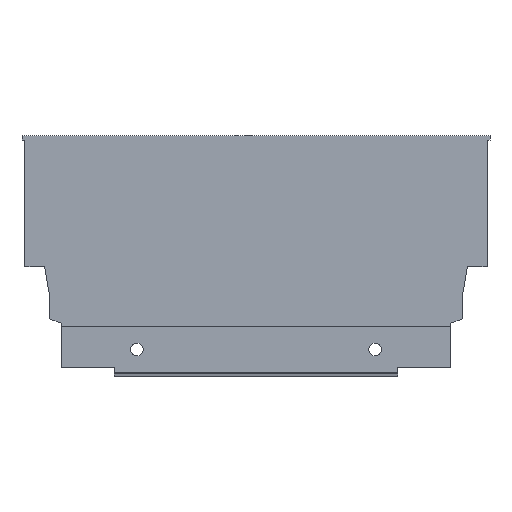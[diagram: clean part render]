
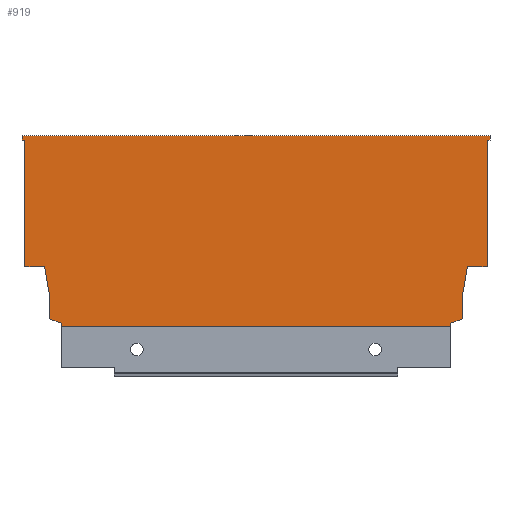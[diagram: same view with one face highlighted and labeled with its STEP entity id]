
A CAD part, top view. The second image highlights one B-rep face of the part: STEP entity #919.
In plain terms, the highlighted planar face has unit normal (0, 0, 1).
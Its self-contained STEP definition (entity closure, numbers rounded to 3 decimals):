
#10 = EDGE_CURVE ( 'NONE', #280, #236, #137, .T. ) ;
#26 = EDGE_CURVE ( 'NONE', #287, #274, #132, .T. ) ;
#28 = EDGE_CURVE ( 'NONE', #309, #254, #146, .T. ) ;
#30 = EDGE_CURVE ( 'NONE', #285, #320, #135, .T. ) ;
#32 = EDGE_CURVE ( 'NONE', #271, #268, #142, .T. ) ;
#34 = EDGE_CURVE ( 'NONE', #262, #300, #143, .T. ) ;
#35 = EDGE_CURVE ( 'NONE', #300, #285, #186, .T. ) ;
#36 = EDGE_CURVE ( 'NONE', #287, #255, #190, .T. ) ;
#38 = EDGE_CURVE ( 'NONE', #248, #274, #228, .T. ) ;
#39 = EDGE_CURVE ( 'NONE', #309, #271, #225, .T. ) ;
#40 = EDGE_CURVE ( 'NONE', #260, #248, #1278, .T. ) ;
#41 = EDGE_CURVE ( 'NONE', #254, #320, #200, .T. ) ;
#43 = EDGE_CURVE ( 'NONE', #255, #262, #231, .T. ) ;
#45 = EDGE_CURVE ( 'NONE', #259, #260, #220, .T. ) ;
#47 = EDGE_CURVE ( 'NONE', #267, #259, #214, .T. ) ;
#49 = EDGE_CURVE ( 'NONE', #236, #267, #205, .T. ) ;
#51 = EDGE_CURVE ( 'NONE', #304, #280, #198, .T. ) ;
#53 = EDGE_CURVE ( 'NONE', #268, #304, #208, .T. ) ;
#129 = VECTOR ( 'NONE', #378, 1000. ) ;
#130 = VECTOR ( 'NONE', #344, 1000. ) ;
#132 = LINE ( 'NONE', #370, #129 ) ;
#135 = LINE ( 'NONE', #381, #140 ) ;
#137 = LINE ( 'NONE', #343, #130 ) ;
#138 = VECTOR ( 'NONE', #382, 1000. ) ;
#139 = VECTOR ( 'NONE', #395, 1000. ) ;
#140 = VECTOR ( 'NONE', #386, 1000. ) ;
#142 = LINE ( 'NONE', #389, #1503 ) ;
#143 = LINE ( 'NONE', #394, #139 ) ;
#146 = LINE ( 'NONE', #379, #138 ) ;
#186 = LINE ( 'NONE', #388, #192 ) ;
#190 = LINE ( 'NONE', #396, #227 ) ;
#192 = VECTOR ( 'NONE', #397, 1000. ) ;
#194 = VECTOR ( 'NONE', #433, 1000. ) ;
#197 = VECTOR ( 'NONE', #429, 1000. ) ;
#198 = LINE ( 'NONE', #428, #197 ) ;
#200 = LINE ( 'NONE', #406, #221 ) ;
#204 = VECTOR ( 'NONE', #425, 1000. ) ;
#205 = LINE ( 'NONE', #424, #204 ) ;
#208 = LINE ( 'NONE', #426, #194 ) ;
#209 = VECTOR ( 'NONE', #421, 1000. ) ;
#213 = VECTOR ( 'NONE', #417, 1000. ) ;
#214 = LINE ( 'NONE', #418, #209 ) ;
#217 = VECTOR ( 'NONE', #413, 1000. ) ;
#220 = LINE ( 'NONE', #414, #213 ) ;
#221 = VECTOR ( 'NONE', #409, 1000. ) ;
#223 = VECTOR ( 'NONE', #407, 1000. ) ;
#224 = VECTOR ( 'NONE', #405, 1000. ) ;
#225 = LINE ( 'NONE', #404, #224 ) ;
#226 = VECTOR ( 'NONE', #403, 1000. ) ;
#227 = VECTOR ( 'NONE', #399, 1000. ) ;
#228 = LINE ( 'NONE', #402, #226 ) ;
#231 = LINE ( 'NONE', #408, #217 ) ;
#236 = VERTEX_POINT ( 'NONE', #592 ) ;
#248 = VERTEX_POINT ( 'NONE', #601 ) ;
#254 = VERTEX_POINT ( 'NONE', #607 ) ;
#255 = VERTEX_POINT ( 'NONE', #608 ) ;
#259 = VERTEX_POINT ( 'NONE', #612 ) ;
#260 = VERTEX_POINT ( 'NONE', #613 ) ;
#262 = VERTEX_POINT ( 'NONE', #615 ) ;
#267 = VERTEX_POINT ( 'NONE', #620 ) ;
#268 = VERTEX_POINT ( 'NONE', #621 ) ;
#271 = VERTEX_POINT ( 'NONE', #624 ) ;
#274 = VERTEX_POINT ( 'NONE', #627 ) ;
#280 = VERTEX_POINT ( 'NONE', #633 ) ;
#285 = VERTEX_POINT ( 'NONE', #638 ) ;
#287 = VERTEX_POINT ( 'NONE', #640 ) ;
#300 = VERTEX_POINT ( 'NONE', #653 ) ;
#304 = VERTEX_POINT ( 'NONE', #657 ) ;
#309 = VERTEX_POINT ( 'NONE', #662 ) ;
#320 = VERTEX_POINT ( 'NONE', #673 ) ;
#343 = CARTESIAN_POINT ( 'NONE',  ( 0., 0., 7.5 ) ) ;
#344 = DIRECTION ( 'NONE',  ( 0., -1., 0. ) ) ;
#370 = CARTESIAN_POINT ( 'NONE',  ( -165., 0., 7.5 ) ) ;
#378 = DIRECTION ( 'NONE',  ( 1., 0., 0. ) ) ;
#379 = CARTESIAN_POINT ( 'NONE',  ( -166., 66.5, 7.5 ) ) ;
#381 = CARTESIAN_POINT ( 'NONE',  ( -170., 21.2, 7.5 ) ) ;
#382 = DIRECTION ( 'NONE',  ( 1., 0., 0. ) ) ;
#386 = DIRECTION ( 'NONE',  ( -1., 0., 0. ) ) ;
#388 = CARTESIAN_POINT ( 'NONE',  ( -157.94, 21.2, 7.5 ) ) ;
#389 = CARTESIAN_POINT ( 'NONE',  ( -165., 68., 7.5 ) ) ;
#390 = DIRECTION ( 'NONE',  ( 1., 0., 0. ) ) ;
#394 = CARTESIAN_POINT ( 'NONE',  ( -156.1, 10.765, 7.5 ) ) ;
#395 = DIRECTION ( 'NONE',  ( 0., 1., 0. ) ) ;
#396 = CARTESIAN_POINT ( 'NONE',  ( -151.996, 1.146, 7.5 ) ) ;
#397 = DIRECTION ( 'NONE',  ( -0.174, 0.985, 0. ) ) ;
#398 = CARTESIAN_POINT ( 'NONE',  ( -8.9, 2.64, 7.5 ) ) ;
#399 = DIRECTION ( 'NONE',  ( 0., 1., 0. ) ) ;
#402 = CARTESIAN_POINT ( 'NONE',  ( -13.004, 1.146, 7.5 ) ) ;
#403 = DIRECTION ( 'NONE',  ( 0., -1., 0. ) ) ;
#404 = CARTESIAN_POINT ( 'NONE',  ( -166., 66.5, 7.5 ) ) ;
#405 = DIRECTION ( 'NONE',  ( 0., 1., 0. ) ) ;
#406 = CARTESIAN_POINT ( 'NONE',  ( -165., 0., 7.5 ) ) ;
#407 = DIRECTION ( 'NONE',  ( -0.94, -0.342, 0. ) ) ;
#408 = CARTESIAN_POINT ( 'NONE',  ( -156.1, 2.64, 7.5 ) ) ;
#409 = DIRECTION ( 'NONE',  ( 0., -1., 0. ) ) ;
#413 = DIRECTION ( 'NONE',  ( -0.94, 0.342, 0. ) ) ;
#414 = CARTESIAN_POINT ( 'NONE',  ( -8.9, 10.765, 7.5 ) ) ;
#417 = DIRECTION ( 'NONE',  ( 0., -1., 0. ) ) ;
#418 = CARTESIAN_POINT ( 'NONE',  ( -7.06, 21.2, 7.5 ) ) ;
#421 = DIRECTION ( 'NONE',  ( -0.174, -0.985, 0. ) ) ;
#424 = CARTESIAN_POINT ( 'NONE',  ( 0., 21.2, 7.5 ) ) ;
#425 = DIRECTION ( 'NONE',  ( -1., 0., 0. ) ) ;
#426 = CARTESIAN_POINT ( 'NONE',  ( 1., 68., 7.5 ) ) ;
#428 = CARTESIAN_POINT ( 'NONE',  ( 1., 66.5, 7.5 ) ) ;
#429 = DIRECTION ( 'NONE',  ( -1., 0., 0. ) ) ;
#433 = DIRECTION ( 'NONE',  ( 0., -1., 0. ) ) ;
#592 = CARTESIAN_POINT ( 'NONE',  ( 0., 21.2, 7.5 ) ) ;
#601 = CARTESIAN_POINT ( 'NONE',  ( -13.004, 1.146, 7.5 ) ) ;
#607 = CARTESIAN_POINT ( 'NONE',  ( -165., 66.5, 7.5 ) ) ;
#608 = CARTESIAN_POINT ( 'NONE',  ( -151.996, 1.146, 7.5 ) ) ;
#612 = CARTESIAN_POINT ( 'NONE',  ( -8.9, 10.765, 7.5 ) ) ;
#613 = CARTESIAN_POINT ( 'NONE',  ( -8.9, 2.64, 7.5 ) ) ;
#615 = CARTESIAN_POINT ( 'NONE',  ( -156.1, 2.64, 7.5 ) ) ;
#620 = CARTESIAN_POINT ( 'NONE',  ( -7.06, 21.2, 7.5 ) ) ;
#621 = CARTESIAN_POINT ( 'NONE',  ( 1., 68., 7.5 ) ) ;
#624 = CARTESIAN_POINT ( 'NONE',  ( -166., 68., 7.5 ) ) ;
#627 = CARTESIAN_POINT ( 'NONE',  ( -13.004, 0., 7.5 ) ) ;
#633 = CARTESIAN_POINT ( 'NONE',  ( 0., 66.5, 7.5 ) ) ;
#638 = CARTESIAN_POINT ( 'NONE',  ( -157.94, 21.2, 7.5 ) ) ;
#640 = CARTESIAN_POINT ( 'NONE',  ( -151.996, 0., 7.5 ) ) ;
#653 = CARTESIAN_POINT ( 'NONE',  ( -156.1, 10.765, 7.5 ) ) ;
#657 = CARTESIAN_POINT ( 'NONE',  ( 1., 66.5, 7.5 ) ) ;
#662 = CARTESIAN_POINT ( 'NONE',  ( -166., 66.5, 7.5 ) ) ;
#673 = CARTESIAN_POINT ( 'NONE',  ( -165., 21.2, 7.5 ) ) ;
#694 = PLANE ( 'NONE',  #1346 ) ;
#697 = CARTESIAN_POINT ( 'NONE',  ( -165., 0., 7.5 ) ) ;
#703 = DIRECTION ( 'NONE',  ( 0., 0., 1. ) ) ;
#704 = DIRECTION ( 'NONE',  ( 1., 0., 0. ) ) ;
#919 = ADVANCED_FACE ( 'NONE', ( #1099 ), #694, .T. ) ;
#1099 = FACE_OUTER_BOUND ( 'NONE', #1270, .T. ) ;
#1270 = EDGE_LOOP ( 'NONE', ( #1469, #1567, #1544, #1482, #1528, #1531, #1580, #1536, #1529, #1535, #1549, #1537, #1532, #1533, #1534, #1500, #1502, #1579 ) ) ;
#1278 = LINE ( 'NONE', #398, #223 ) ;
#1346 = AXIS2_PLACEMENT_3D ( 'NONE', #697, #703, #704 ) ;
#1469 = ORIENTED_EDGE ( 'NONE', *, *, #32, .F. ) ;
#1482 = ORIENTED_EDGE ( 'NONE', *, *, #41, .T. ) ;
#1500 = ORIENTED_EDGE ( 'NONE', *, *, #10, .F. ) ;
#1502 = ORIENTED_EDGE ( 'NONE', *, *, #51, .F. ) ;
#1503 = VECTOR ( 'NONE', #390, 1000. ) ;
#1528 = ORIENTED_EDGE ( 'NONE', *, *, #30, .F. ) ;
#1529 = ORIENTED_EDGE ( 'NONE', *, *, #36, .F. ) ;
#1531 = ORIENTED_EDGE ( 'NONE', *, *, #35, .F. ) ;
#1532 = ORIENTED_EDGE ( 'NONE', *, *, #45, .F. ) ;
#1533 = ORIENTED_EDGE ( 'NONE', *, *, #47, .F. ) ;
#1534 = ORIENTED_EDGE ( 'NONE', *, *, #49, .F. ) ;
#1535 = ORIENTED_EDGE ( 'NONE', *, *, #26, .T. ) ;
#1536 = ORIENTED_EDGE ( 'NONE', *, *, #43, .F. ) ;
#1537 = ORIENTED_EDGE ( 'NONE', *, *, #40, .F. ) ;
#1544 = ORIENTED_EDGE ( 'NONE', *, *, #28, .T. ) ;
#1549 = ORIENTED_EDGE ( 'NONE', *, *, #38, .F. ) ;
#1567 = ORIENTED_EDGE ( 'NONE', *, *, #39, .F. ) ;
#1579 = ORIENTED_EDGE ( 'NONE', *, *, #53, .F. ) ;
#1580 = ORIENTED_EDGE ( 'NONE', *, *, #34, .F. ) ;
